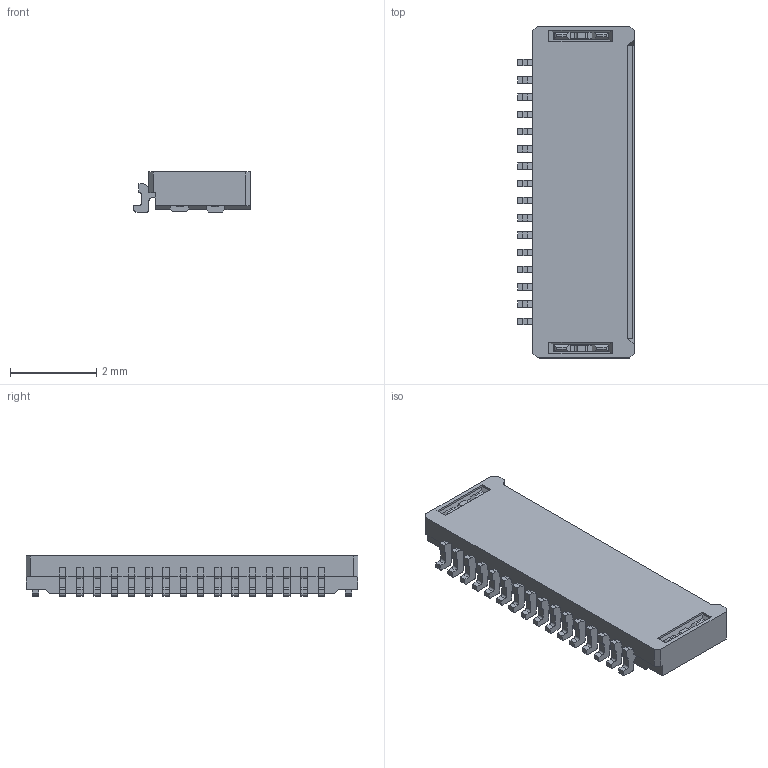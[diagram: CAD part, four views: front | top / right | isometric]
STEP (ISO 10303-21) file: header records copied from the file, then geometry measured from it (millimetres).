
FILE_DESCRIPTION (( 'STEP AP214' ), '1' );
FILE_NAME ('04_6824_616_000_846+.STEP', '2017-07-25T07:28:43', ( 'Asmin' ), ( '' ), 'SwSTEP 2.0', 'SolidWorks 2014', '' );
FILE_SCHEMA (( 'AUTOMOTIVE_DESIGN' ));
Length unit declared in the file: millimetre
Products named in the file (1): 04_6824_616_000_846+
Bounding box: 2.7 x 7.7 x 0.93 mm (x, y, z)
Volume: 10.9 mm3; surface area: 89.1 mm2
Topology: 1 solids, 1 shells, 400 faces, 1164 edges, 768 vertices
Faces by surface type: plane 307, cylinder 93
Entity records: 17475 total; most frequent: CARTESIAN_POINT 2339, ORIENTED_EDGE 2328, DIRECTION 2148, EDGE_CURVE 1164, VECTOR 978, LINE 978, VERTEX_POINT 768, AXIS2_PLACEMENT_3D 585
